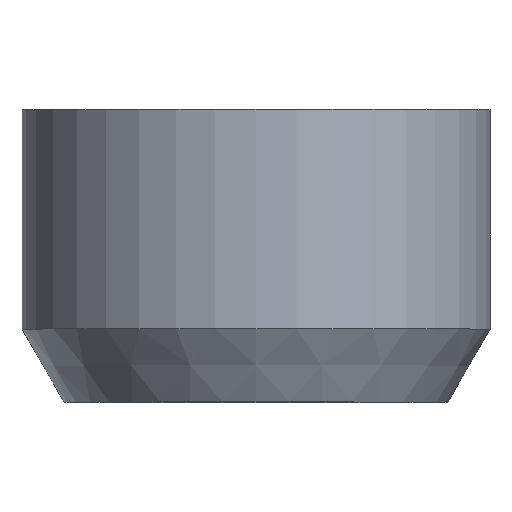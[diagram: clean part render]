
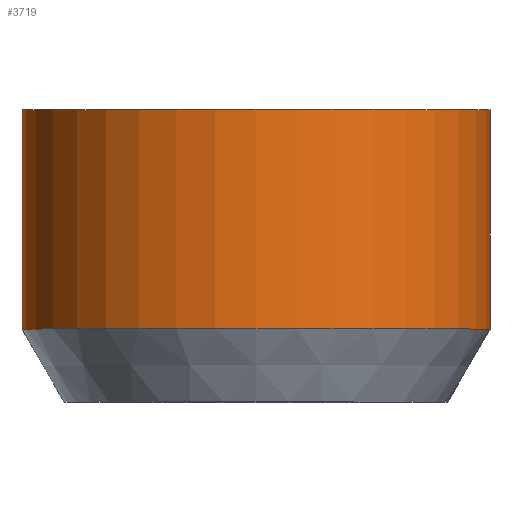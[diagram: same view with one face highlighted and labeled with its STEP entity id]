
A CAD part, top view. The second image highlights one B-rep face of the part: STEP entity #3719.
In plain terms, the highlighted cylindrical face has radius 8 mm (diameter 16 mm), a full revolution.
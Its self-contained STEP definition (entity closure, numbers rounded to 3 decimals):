
#61 = FACE_OUTER_BOUND ( 'NONE', #4313, .T. ) ;
#64 = ORIENTED_EDGE ( 'NONE', *, *, #1811, .T. ) ;
#103 = FACE_OUTER_BOUND ( 'NONE', #479, .T. ) ;
#366 = AXIS2_PLACEMENT_3D ( 'NONE', #850, #1227, #4535 ) ;
#451 = CIRCLE ( 'NONE', #3639, 8. ) ;
#479 = EDGE_LOOP ( 'NONE', ( #1063 ) ) ;
#645 = CIRCLE ( 'NONE', #1881, 8. ) ;
#850 = CARTESIAN_POINT ( 'NONE',  ( 0., 0., 0. ) ) ;
#955 = VERTEX_POINT ( 'NONE', #2227 ) ;
#1063 = ORIENTED_EDGE ( 'NONE', *, *, #2051, .T. ) ;
#1227 = DIRECTION ( 'NONE',  ( 0., -1., 0. ) ) ;
#1557 = CARTESIAN_POINT ( 'NONE',  ( 8., 10., 0. ) ) ;
#1809 = DIRECTION ( 'NONE',  ( 1., 0., 0. ) ) ;
#1811 = EDGE_CURVE ( 'NONE', #955, #955, #645, .T. ) ;
#1881 = AXIS2_PLACEMENT_3D ( 'NONE', #2650, #4501, #2247 ) ;
#2051 = EDGE_CURVE ( 'NONE', #2661, #2661, #451, .T. ) ;
#2227 = CARTESIAN_POINT ( 'NONE',  ( -8., 2.5, 0. ) ) ;
#2247 = DIRECTION ( 'NONE',  ( -1., 0., 0. ) ) ;
#2522 = DIRECTION ( 'NONE',  ( 0., -1., 0. ) ) ;
#2650 = CARTESIAN_POINT ( 'NONE',  ( 0., 2.5, 0. ) ) ;
#2661 = VERTEX_POINT ( 'NONE', #1557 ) ;
#2771 = CYLINDRICAL_SURFACE ( 'NONE', #366, 8. ) ;
#3639 = AXIS2_PLACEMENT_3D ( 'NONE', #4339, #2522, #1809 ) ;
#3719 = ADVANCED_FACE ( 'NONE', ( #61, #103 ), #2771, .T. ) ;
#4313 = EDGE_LOOP ( 'NONE', ( #64 ) ) ;
#4339 = CARTESIAN_POINT ( 'NONE',  ( 0., 10., 0. ) ) ;
#4501 = DIRECTION ( 'NONE',  ( 0., 1., 0. ) ) ;
#4535 = DIRECTION ( 'NONE',  ( 1., 0., 0. ) ) ;
